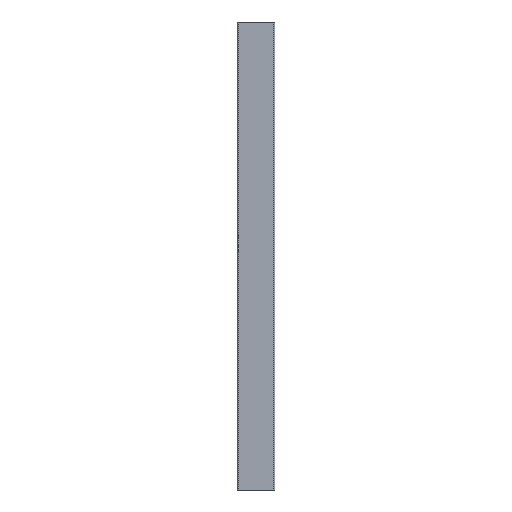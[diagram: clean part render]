
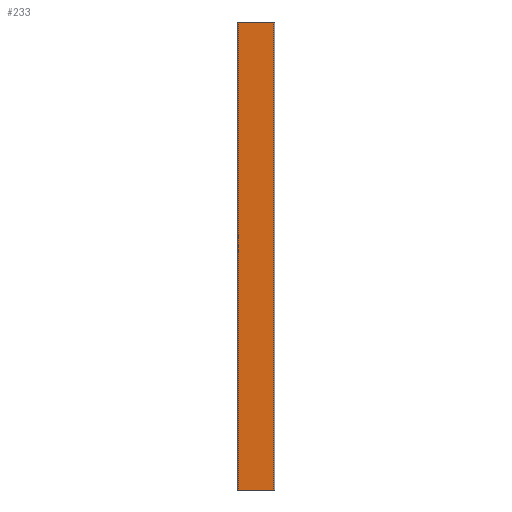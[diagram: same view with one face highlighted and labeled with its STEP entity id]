
A CAD part, left-side view. The second image highlights one B-rep face of the part: STEP entity #233.
In plain terms, the highlighted planar face has unit normal (-1, 0, 0).
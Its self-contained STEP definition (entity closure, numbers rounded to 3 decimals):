
#8 = LINE ( 'NONE', #735, #459 ) ;
#9 = FACE_OUTER_BOUND ( 'NONE', #325, .T. ) ;
#35 = VERTEX_POINT ( 'NONE', #420 ) ;
#92 = VECTOR ( 'NONE', #182, 1000. ) ;
#112 = EDGE_CURVE ( 'NONE', #635, #852, #599, .T. ) ;
#115 = DIRECTION ( 'NONE',  ( 0., -1., 0. ) ) ;
#171 = EDGE_CURVE ( 'NONE', #852, #666, #177, .T. ) ;
#177 = LINE ( 'NONE', #658, #586 ) ;
#182 = DIRECTION ( 'NONE',  ( 0., -1., 0. ) ) ;
#203 = DIRECTION ( 'NONE',  ( 1., 0., 0. ) ) ;
#233 = ADVANCED_FACE ( 'NONE', ( #9 ), #274, .F. ) ;
#237 = DIRECTION ( 'NONE',  ( 0., 0., -1. ) ) ;
#262 = CARTESIAN_POINT ( 'NONE',  ( -5.5, 0.25, -50. ) ) ;
#274 = PLANE ( 'NONE',  #855 ) ;
#311 = CARTESIAN_POINT ( 'NONE',  ( -5.5, 0.25, 50. ) ) ;
#325 = EDGE_LOOP ( 'NONE', ( #707, #651, #723, #483 ) ) ;
#420 = CARTESIAN_POINT ( 'NONE',  ( -5.5, 7.75, 50. ) ) ;
#459 = VECTOR ( 'NONE', #115, 1000. ) ;
#483 = ORIENTED_EDGE ( 'NONE', *, *, #500, .T. ) ;
#485 = DIRECTION ( 'NONE',  ( 0., 1., 0. ) ) ;
#500 = EDGE_CURVE ( 'NONE', #35, #635, #785, .T. ) ;
#586 = VECTOR ( 'NONE', #861, 1000. ) ;
#599 = LINE ( 'NONE', #746, #92 ) ;
#635 = VERTEX_POINT ( 'NONE', #676 ) ;
#651 = ORIENTED_EDGE ( 'NONE', *, *, #171, .T. ) ;
#658 = CARTESIAN_POINT ( 'NONE',  ( -5.5, 0.25, 50. ) ) ;
#666 = VERTEX_POINT ( 'NONE', #311 ) ;
#675 = VECTOR ( 'NONE', #237, 1000. ) ;
#676 = CARTESIAN_POINT ( 'NONE',  ( -5.5, 7.75, -50. ) ) ;
#707 = ORIENTED_EDGE ( 'NONE', *, *, #112, .T. ) ;
#723 = ORIENTED_EDGE ( 'NONE', *, *, #831, .F. ) ;
#735 = CARTESIAN_POINT ( 'NONE',  ( -5.5, 0., 50. ) ) ;
#746 = CARTESIAN_POINT ( 'NONE',  ( -5.5, 0., -50. ) ) ;
#785 = LINE ( 'NONE', #849, #675 ) ;
#824 = CARTESIAN_POINT ( 'NONE',  ( -5.5, 0., 50. ) ) ;
#831 = EDGE_CURVE ( 'NONE', #35, #666, #8, .T. ) ;
#849 = CARTESIAN_POINT ( 'NONE',  ( -5.5, 7.75, 50. ) ) ;
#852 = VERTEX_POINT ( 'NONE', #262 ) ;
#855 = AXIS2_PLACEMENT_3D ( 'NONE', #824, #203, #485 ) ;
#861 = DIRECTION ( 'NONE',  ( 0., 0., 1. ) ) ;
